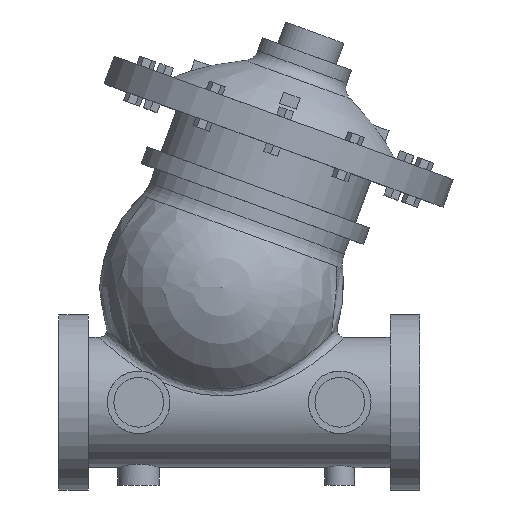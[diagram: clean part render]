
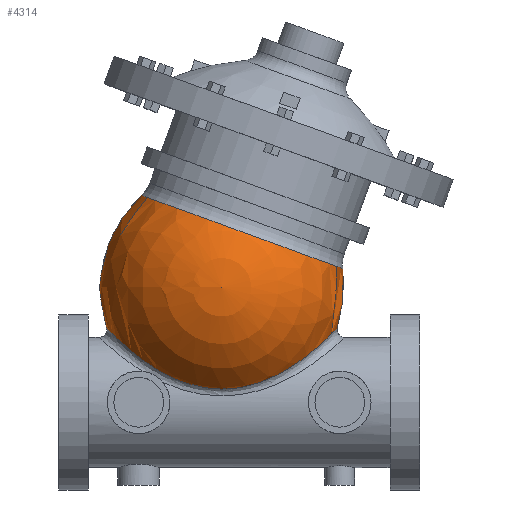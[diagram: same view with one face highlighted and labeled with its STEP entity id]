
A CAD part, top view. The second image highlights one B-rep face of the part: STEP entity #4314.
In plain terms, the highlighted spherical face has radius 52.537 mm.
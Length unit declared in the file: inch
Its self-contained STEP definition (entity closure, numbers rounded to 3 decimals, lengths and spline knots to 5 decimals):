
#1229=FACE_BOUND('',#1547,.T.);
#1230=FACE_BOUND('',#1548,.T.);
#1276=B_SPLINE_CURVE_WITH_KNOTS('',3,(#6025,#6026,#6027,#6028,#6029,#6030,
#6031,#6032,#6033,#6034,#6035,#6036,#6037,#6038,#6039,#6040,#6041,#6042,
#6043,#6044,#6045,#6046,#6047,#6048,#6049,#6050,#6051,#6052,#6053),
 .UNSPECIFIED.,.T.,.F.,(4,1,1,1,1,1,1,1,1,1,1,1,1,1,1,1,1,1,1,1,1,1,1,1,
1,1,4),(0.,0.95577,1.91154,3.82307,5.09743,
5.73461,6.37179,7.00896,7.64614,8.28332,
8.9205,10.19486,11.46921,12.74357,14.01793,
15.29229,16.56664,17.841,19.11536,20.07112,
21.02689,21.98266,22.93843,23.8942,24.84996,
25.80573,26.7615),.UNSPECIFIED.);
#1311=SPHERICAL_SURFACE('',#4573,2.0684);
#1313=FACE_OUTER_BOUND('',#1546,.T.);
#1546=EDGE_LOOP('',(#2903,#2904));
#1547=EDGE_LOOP('',(#2905));
#1548=EDGE_LOOP('',(#2906,#2907));
#1825=CIRCLE('',#4567,1.81198);
#1830=CIRCLE('',#4572,1.81198);
#1831=CIRCLE('',#4574,2.0684);
#1902=VERTEX_POINT('',#6009);
#1903=VERTEX_POINT('',#6010);
#1907=VERTEX_POINT('',#6021);
#1908=VERTEX_POINT('',#6022);
#1909=VERTEX_POINT('',#6024);
#2306=EDGE_CURVE('',#1902,#1903,#1825,.T.);
#2311=EDGE_CURVE('',#1903,#1902,#1830,.T.);
#2312=EDGE_CURVE('',#1907,#1908,#1831,.T.);
#2313=EDGE_CURVE('',#1909,#1909,#1276,.T.);
#2903=ORIENTED_EDGE('',*,*,#2312,.T.);
#2904=ORIENTED_EDGE('',*,*,#2312,.F.);
#2905=ORIENTED_EDGE('',*,*,#2313,.F.);
#2906=ORIENTED_EDGE('',*,*,#2306,.F.);
#2907=ORIENTED_EDGE('',*,*,#2311,.F.);
#4314=ADVANCED_FACE('',(#1313,#1229,#1230),#1311,.T.);
#4567=AXIS2_PLACEMENT_3D('',#6011,#4891,#4892);
#4572=AXIS2_PLACEMENT_3D('',#6019,#4901,#4902);
#4573=AXIS2_PLACEMENT_3D('',#6020,#4903,#4904);
#4574=AXIS2_PLACEMENT_3D('',#6023,#4905,#4906);
#4891=DIRECTION('center_axis',(0.342,0.94,0.));
#4892=DIRECTION('ref_axis',(0.94,-0.342,0.));
#4901=DIRECTION('center_axis',(0.342,0.94,0.));
#4902=DIRECTION('ref_axis',(0.94,-0.342,0.));
#4903=DIRECTION('center_axis',(0.,0.,1.));
#4904=DIRECTION('ref_axis',(1.,0.,0.));
#4905=DIRECTION('center_axis',(0.,-1.,0.));
#4906=DIRECTION('ref_axis',(-1.,0.,0.));
#6009=CARTESIAN_POINT('',(-1.65411,3.50073,0.));
#6010=CARTESIAN_POINT('',(0.0486,2.88099,-1.81198));
#6011=CARTESIAN_POINT('Origin',(0.0486,2.88099,0.));
#6019=CARTESIAN_POINT('Origin',(0.0486,2.88099,0.));
#6020=CARTESIAN_POINT('Origin',(-0.29257,1.94366,0.));
#6021=CARTESIAN_POINT('',(-0.29257,1.94366,2.0684));
#6022=CARTESIAN_POINT('',(-0.29257,1.94366,-2.0684));
#6023=CARTESIAN_POINT('Origin',(-0.29257,1.94366,0.));
#6024=CARTESIAN_POINT('',(-0.29257,0.22416,1.14961));
#6025=CARTESIAN_POINT('Ctrl Pts',(-0.29257,0.22416,
1.14961));
#6026=CARTESIAN_POINT('Ctrl Pts',(-0.42781,0.22416,1.14961));
#6027=CARTESIAN_POINT('Ctrl Pts',(-0.69836,0.2548,
1.14724));
#6028=CARTESIAN_POINT('Ctrl Pts',(-1.21341,0.42496,1.11974));
#6029=CARTESIAN_POINT('Ctrl Pts',(-1.70566,0.74741,1.00512));
#6030=CARTESIAN_POINT('Ctrl Pts',(-2.0438,1.05745,0.69588));
#6031=CARTESIAN_POINT('Ctrl Pts',(-2.19028,1.20594,0.3968));
#6032=CARTESIAN_POINT('Ctrl Pts',(-2.2492,1.26851,0.13719));
#6033=CARTESIAN_POINT('Ctrl Pts',(-2.24926,1.26857,-0.13708));
#6034=CARTESIAN_POINT('Ctrl Pts',(-2.19022,1.20586,-0.39694));
#6035=CARTESIAN_POINT('Ctrl Pts',(-2.0806,1.09479,-0.62068));
#6036=CARTESIAN_POINT('Ctrl Pts',(-1.88088,0.9067,-0.8591));
#6037=CARTESIAN_POINT('Ctrl Pts',(-1.55581,0.64248,-1.04337));
#6038=CARTESIAN_POINT('Ctrl Pts',(-1.08909,0.37474,-1.13168));
#6039=CARTESIAN_POINT('Ctrl Pts',(-0.56621,0.21774,
-1.15059));
#6040=CARTESIAN_POINT('Ctrl Pts',(-0.01899,0.21773,
-1.15044));
#6041=CARTESIAN_POINT('Ctrl Pts',(0.50392,0.37471,-1.13192));
#6042=CARTESIAN_POINT('Ctrl Pts',(0.9707,0.64251,-1.04299));
#6043=CARTESIAN_POINT('Ctrl Pts',(1.36065,0.95942,-0.82295));
#6044=CARTESIAN_POINT('Ctrl Pts',(1.608,1.2078,-0.4509));
#6045=CARTESIAN_POINT('Ctrl Pts',(1.68474,1.29104,0.00031));
#6046=CARTESIAN_POINT('Ctrl Pts',(1.61582,1.2163,0.40504));
#6047=CARTESIAN_POINT('Ctrl Pts',(1.43205,1.03086,0.72577));
#6048=CARTESIAN_POINT('Ctrl Pts',(1.17047,0.80039,0.94137));
#6049=CARTESIAN_POINT('Ctrl Pts',(0.85513,0.57317,1.06682));
#6050=CARTESIAN_POINT('Ctrl Pts',(0.49977,0.38282,1.1267));
#6051=CARTESIAN_POINT('Ctrl Pts',(0.1131,0.25456,1.14718));
#6052=CARTESIAN_POINT('Ctrl Pts',(-0.15732,0.22416,
1.14961));
#6053=CARTESIAN_POINT('Ctrl Pts',(-0.29257,0.22416,
1.14961));
